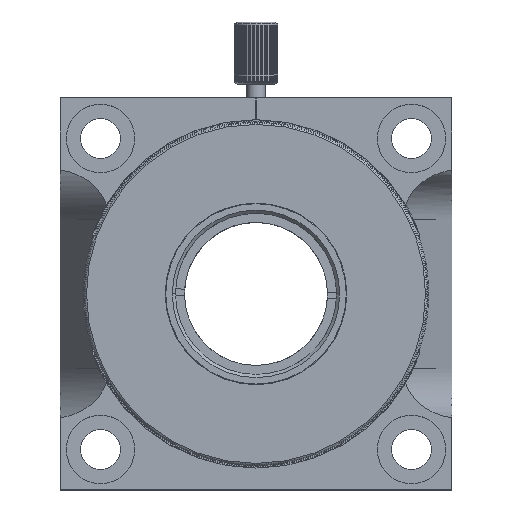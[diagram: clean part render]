
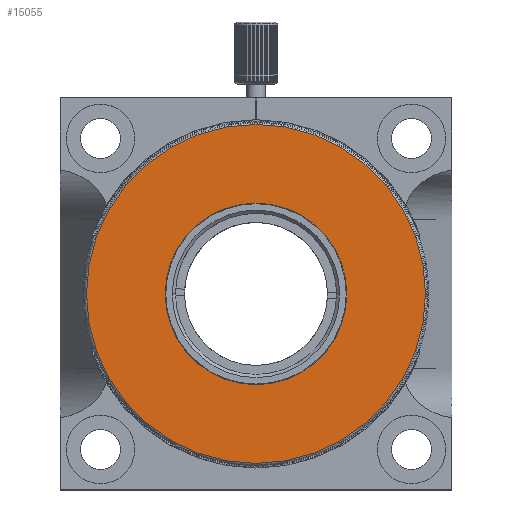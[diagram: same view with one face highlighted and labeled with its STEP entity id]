
A CAD part, top view. The second image highlights one B-rep face of the part: STEP entity #15055.
In plain terms, the highlighted planar face has unit normal (0, 0, 1).
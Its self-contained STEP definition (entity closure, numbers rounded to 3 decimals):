
#12385 = EDGE_CURVE ( 'NONE', #12395, #12386, #46145, .T. ) ;
#12386 = VERTEX_POINT ( 'NONE', #46140 ) ;
#12395 = VERTEX_POINT ( 'NONE', #46189 ) ;
#12467 = VERTEX_POINT ( 'NONE', #46370 ) ;
#12468 = VERTEX_POINT ( 'NONE', #46369 ) ;
#12475 = EDGE_CURVE ( 'NONE', #12468, #12467, #46349, .T. ) ;
#14363 = EDGE_CURVE ( 'NONE', #12467, #12468, #50057, .T. ) ;
#15055 = ADVANCED_FACE ( 'NONE', ( #50061, #50060 ), #50059, .T. ) ;
#15056 = EDGE_LOOP ( 'NONE', ( #15057, #15111 ) ) ;
#15057 = ORIENTED_EDGE ( 'NONE', *, *, #14363, .T. ) ;
#15111 = ORIENTED_EDGE ( 'NONE', *, *, #12475, .T. ) ;
#15112 = EDGE_LOOP ( 'NONE', ( #15113, #15115 ) ) ;
#15113 = ORIENTED_EDGE ( 'NONE', *, *, #15114, .T. ) ;
#15114 = EDGE_CURVE ( 'NONE', #12386, #12395, #50189, .T. ) ;
#15115 = ORIENTED_EDGE ( 'NONE', *, *, #12385, .T. ) ;
#46140 = CARTESIAN_POINT ( 'NONE',  ( -14.031, 32.086, 15. ) ) ;
#46141 = DIRECTION ( 'NONE',  ( -1., 0., 0. ) ) ;
#46142 = DIRECTION ( 'NONE',  ( 0., 0., -1. ) ) ;
#46143 = CARTESIAN_POINT ( 'NONE',  ( 0.563, 32.086, 15. ) ) ;
#46144 = AXIS2_PLACEMENT_3D ( 'NONE', #46143, #46142, #46141 ) ;
#46145 = CIRCLE ( 'NONE', #46144, 14.594 ) ;
#46189 = CARTESIAN_POINT ( 'NONE',  ( 15.157, 32.086, 15. ) ) ;
#46345 = DIRECTION ( 'NONE',  ( -1., 0., 0. ) ) ;
#46346 = DIRECTION ( 'NONE',  ( 0., 0., 1. ) ) ;
#46347 = CARTESIAN_POINT ( 'NONE',  ( 0.563, 32.086, 15. ) ) ;
#46348 = AXIS2_PLACEMENT_3D ( 'NONE', #46347, #46346, #46345 ) ;
#46349 = CIRCLE ( 'NONE', #46348, 27.25 ) ;
#46369 = CARTESIAN_POINT ( 'NONE',  ( 27.813, 32.086, 15. ) ) ;
#46370 = CARTESIAN_POINT ( 'NONE',  ( -26.687, 32.086, 15. ) ) ;
#50053 = DIRECTION ( 'NONE',  ( -1., 0., 0. ) ) ;
#50054 = DIRECTION ( 'NONE',  ( 0., 0., 1. ) ) ;
#50055 = CARTESIAN_POINT ( 'NONE',  ( 0.563, 32.086, 15. ) ) ;
#50056 = AXIS2_PLACEMENT_3D ( 'NONE', #50055, #50054, #50053 ) ;
#50057 = CIRCLE ( 'NONE', #50056, 27.25 ) ;
#50058 = AXIS2_PLACEMENT_3D ( 'NONE', #50123, #50122, #50121 ) ;
#50059 = PLANE ( 'NONE',  #50058 ) ;
#50060 = FACE_BOUND ( 'NONE', #15112, .T. ) ;
#50061 = FACE_OUTER_BOUND ( 'NONE', #15056, .T. ) ;
#50121 = DIRECTION ( 'NONE',  ( 0., -1., 0. ) ) ;
#50122 = DIRECTION ( 'NONE',  ( 0., 0., 1. ) ) ;
#50123 = CARTESIAN_POINT ( 'NONE',  ( 0.563, 32.086, 15. ) ) ;
#50185 = DIRECTION ( 'NONE',  ( -1., 0., 0. ) ) ;
#50186 = DIRECTION ( 'NONE',  ( 0., 0., -1. ) ) ;
#50187 = CARTESIAN_POINT ( 'NONE',  ( 0.563, 32.086, 15. ) ) ;
#50188 = AXIS2_PLACEMENT_3D ( 'NONE', #50187, #50186, #50185 ) ;
#50189 = CIRCLE ( 'NONE', #50188, 14.594 ) ;
